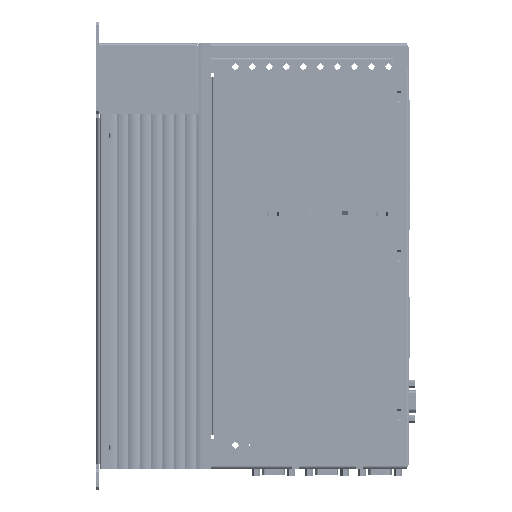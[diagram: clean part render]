
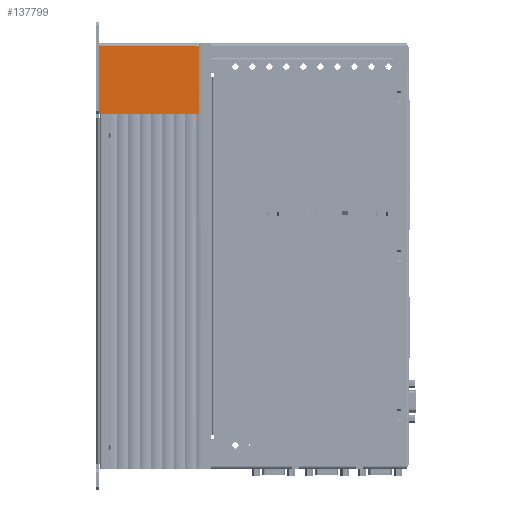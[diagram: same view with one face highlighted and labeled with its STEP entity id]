
A CAD part, left-side view. The second image highlights one B-rep face of the part: STEP entity #137799.
In plain terms, the highlighted planar face has unit normal (-1, 0, 0) as drawn and (1, 0, 0) by its records, which use the part's own axes.
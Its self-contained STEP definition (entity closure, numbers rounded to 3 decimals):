
#111568 = DIRECTION ( 'NONE',  ( 0., 1., 0. ) ) ;
#111569 = VECTOR ( 'NONE', #111568, 1000. ) ;
#111571 = CARTESIAN_POINT ( 'NONE',  ( 60., 0., 71. ) ) ;
#111572 = LINE ( 'NONE', #111571, #111569 ) ;
#131230 = VERTEX_POINT ( 'NONE', #268462 ) ;
#131246 = EDGE_CURVE ( 'NONE', #131253, #131230, #268454, .T. ) ;
#131253 = VERTEX_POINT ( 'NONE', #268477 ) ;
#137725 = EDGE_CURVE ( 'NONE', #137853, #137731, #280120, .T. ) ;
#137731 = VERTEX_POINT ( 'NONE', #280116 ) ;
#137799 = ADVANCED_FACE ( 'NONE', ( #280265 ), #280260, .F. ) ;
#137803 = EDGE_LOOP ( 'NONE', ( #137809, #137813, #137829, #137886, #137894 ) ) ;
#137809 = ORIENTED_EDGE ( 'NONE', *, *, #137725, .T. ) ;
#137813 = ORIENTED_EDGE ( 'NONE', *, *, #137818, .F. ) ;
#137818 = EDGE_CURVE ( 'NONE', #137824, #137731, #280230, .T. ) ;
#137824 = VERTEX_POINT ( 'NONE', #280220 ) ;
#137829 = ORIENTED_EDGE ( 'NONE', *, *, #178644, .F. ) ;
#137853 = VERTEX_POINT ( 'NONE', #280349 ) ;
#137886 = ORIENTED_EDGE ( 'NONE', *, *, #131246, .T. ) ;
#137894 = ORIENTED_EDGE ( 'NONE', *, *, #137895, .T. ) ;
#137895 = EDGE_CURVE ( 'NONE', #131230, #137853, #280420, .T. ) ;
#178644 = EDGE_CURVE ( 'NONE', #131253, #137824, #111572, .T. ) ;
#268452 = VECTOR ( 'NONE', #268478, 1000. ) ;
#268453 = CARTESIAN_POINT ( 'NONE',  ( 60., 1.8, 71. ) ) ;
#268454 = LINE ( 'NONE', #268453, #268452 ) ;
#268462 = CARTESIAN_POINT ( 'NONE',  ( 60., 1.8, 69.2 ) ) ;
#268477 = CARTESIAN_POINT ( 'NONE',  ( 60., 1.8, 71. ) ) ;
#268478 = DIRECTION ( 'NONE',  ( 0., 0., -1. ) ) ;
#280116 = CARTESIAN_POINT ( 'NONE',  ( 60., 50., 0. ) ) ;
#280117 = DIRECTION ( 'NONE',  ( 0., 1., 0. ) ) ;
#280118 = VECTOR ( 'NONE', #280117, 1000. ) ;
#280119 = CARTESIAN_POINT ( 'NONE',  ( 60., 0., 0. ) ) ;
#280120 = LINE ( 'NONE', #280119, #280118 ) ;
#280220 = CARTESIAN_POINT ( 'NONE',  ( 60., 50., 71. ) ) ;
#280227 = DIRECTION ( 'NONE',  ( 0., 0., -1. ) ) ;
#280228 = VECTOR ( 'NONE', #280227, 1000. ) ;
#280229 = CARTESIAN_POINT ( 'NONE',  ( 60., 50., 71. ) ) ;
#280230 = LINE ( 'NONE', #280229, #280228 ) ;
#280255 = DIRECTION ( 'NONE',  ( 0., -1., 0. ) ) ;
#280256 = DIRECTION ( 'NONE',  ( -1., 0., 0. ) ) ;
#280257 = CARTESIAN_POINT ( 'NONE',  ( 60., 0., 71. ) ) ;
#280259 = AXIS2_PLACEMENT_3D ( 'NONE', #280257, #280256, #280255 ) ;
#280260 = PLANE ( 'NONE',  #280259 ) ;
#280265 = FACE_OUTER_BOUND ( 'NONE', #137803, .T. ) ;
#280349 = CARTESIAN_POINT ( 'NONE',  ( 60., 1.8, 0. ) ) ;
#280415 = DIRECTION ( 'NONE',  ( 0., 0., -1. ) ) ;
#280416 = VECTOR ( 'NONE', #280415, 1000. ) ;
#280418 = CARTESIAN_POINT ( 'NONE',  ( 60., 1.8, 71. ) ) ;
#280420 = LINE ( 'NONE', #280418, #280416 ) ;
